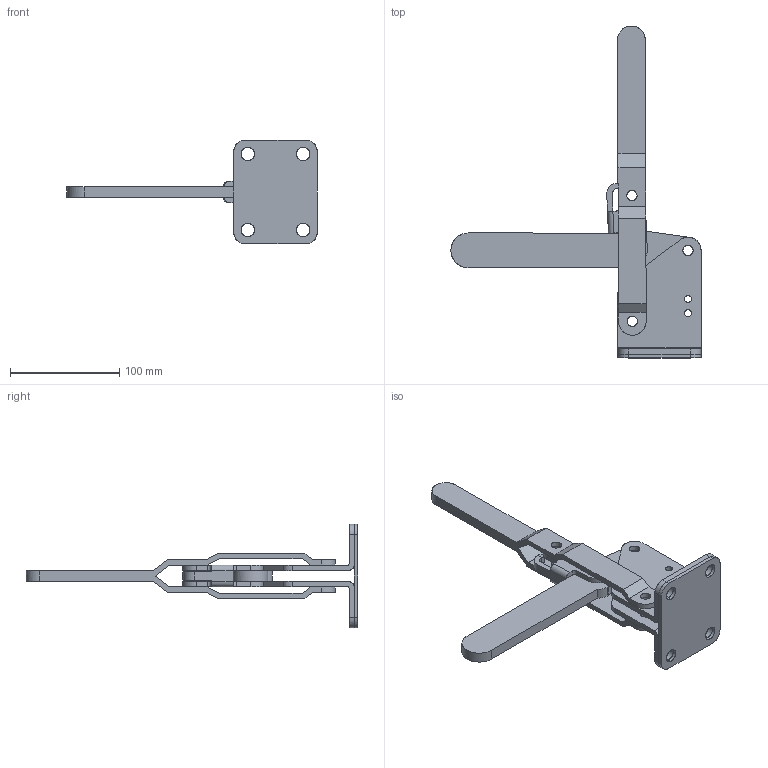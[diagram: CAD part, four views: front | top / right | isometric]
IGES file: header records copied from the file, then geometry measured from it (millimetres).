
Start section: Comment
Global section: file name: 101js.igs; native system:  By Spatial Corp.; preprocessor: XPlus PS/IGES 3.0; author: Author; organization: Title; date: 20050216.163510; units: inch
Bounding box: 229.19 x 304.1 x 95.2 mm (x, y, z)
Surface area: 115948.9 mm2 (no closed solid volume)
Topology: 0 solids, 0 shells, 166 faces, 932 edges, 932 vertices
Faces by surface type: revolution 91, extrusion 75
